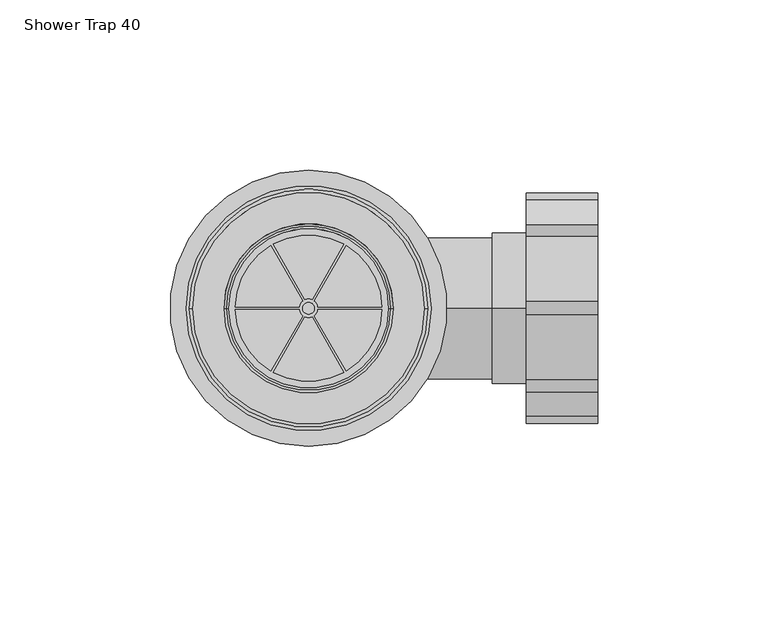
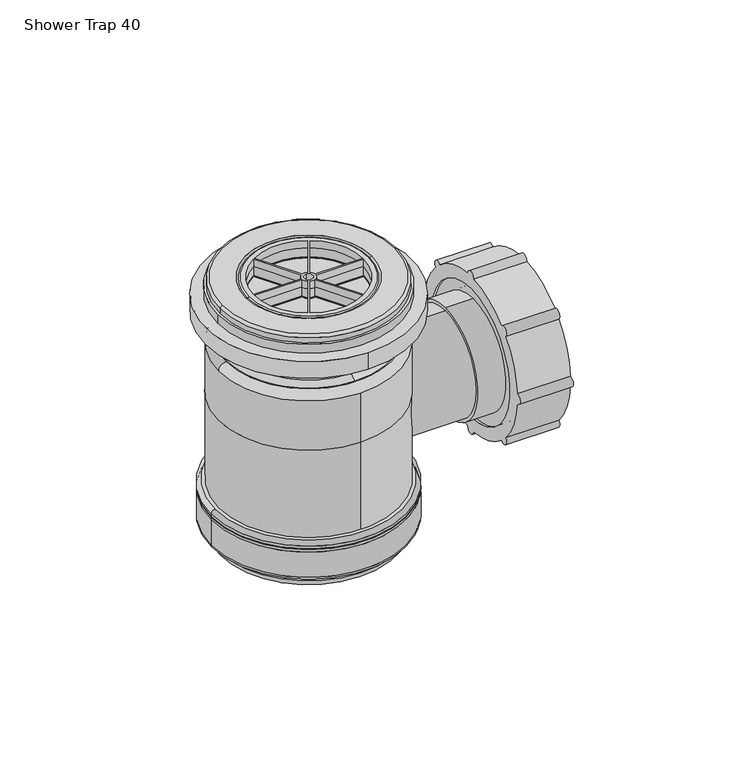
"""IFC4 building model written with IfcOpenShell, lengths in millimetres: pipe fitting geometry, Wavin_PipeAccessory_OsmaAccessoriesShowerTrap : Shower Trap 40."""

from ifc_helpers import new_model, si_unit, point, frame, frame_2d, origin, origin_2d, place, context, project, spatial, polyline, circle_curve, ellipse_curve, trimmed, segment, composite_curve, outline, extrude, source, transform, mapped, element, save
from ifc_brep_helpers import plane_surface, cylinder_surface, revolved_surface, advanced_brep


def shower_trap_40_e6af812f(model_context):
    return source(origin(), model_context, "Body", "SolidModel", [
        extrude(outline(composite_curve([segment(trimmed(circle_curve(origin_2d(), 29.1039051), [point((29.1039051, 0.0))], [point((-29.1039051, 0.0))], False, "CARTESIAN"), True, "CONTINUOUS"), segment(trimmed(circle_curve(origin_2d(), 29.1039051), [point((-29.1039051, 0.0))], [point((29.1039051, 0.0))], False, "CARTESIAN"), True, "CONTINUOUS")], self_intersect=False)), frame((0.0, 0.0, 30.0080038), z_axis=(0.0, 0.0, 1.0), x_axis=(1.0, 0.0, 0.0)), (0.0, 0.0, 1.0), 16.4919962),
        extrude(outline(composite_curve([segment(trimmed(circle_curve(origin_2d(), 20.8326286), [point((0.0, -20.8326286))], [point((0.0, 20.8326286))], False, "CARTESIAN"), True, "CONTINUOUS"), segment(trimmed(circle_curve(origin_2d(), 20.8326286), [point((0.0, 20.8326286))], [point((0.0, -20.8326286))], False, "CARTESIAN"), True, "CONTINUOUS")], self_intersect=False)), frame((0.0, 0.0, 0.0), z_axis=(1.0, 0.0, 0.0), x_axis=(0.0, 1.0, 0.0)), (0.0, 0.0, 1.0), 54.0),
        advanced_brep(
        [(-35.5, 0.0, -46.0), (35.5, 0.0, -46.0), (35.5, 0.0, -29.9504354), (-35.5, 0.0, -29.9504354), (-38.4797173, 0.0, -44.5101414), (38.4797173, 0.0, -44.5101414), (36.9898586, 0.0, -46.0), (-36.9898586, 0.0, -46.0), (-36.9898586, 0.0, -29.9504354), (36.9898586, 0.0, -29.9504354), (38.4797173, 0.0, -31.4402941), (-38.4797173, 0.0, -31.4402941), (-38.4797173, 0.0, -33.9650331), (38.4797173, 0.0, -33.9650331), (-37.7997041, 0.0, -33.2850199), (37.7997041, 0.0, -33.2850199), (-38.4797173, 0.0, -32.6050067), (38.4797173, 0.0, -32.6050067)],
        [
            (0, 1, circle_curve(frame((0.0, 0.0, -46.0), z_axis=(0.0, 0.0, -1.0), x_axis=(1.0, 0.0, 0.0)), 35.5)),
            (1, 2),
            (2, 3, circle_curve(frame((0.0, 0.0, -29.9504354), z_axis=(0.0, 0.0, 1.0), x_axis=(1.0, 0.0, 0.0)), 35.5)),
            (3, 0),
            (4, 5, circle_curve(frame((0.0, 0.0, -44.5101414), z_axis=(0.0, 0.0, -1.0), x_axis=(1.0, 0.0, 0.0)), 38.4797173)),
            (5, 6, circle_curve(frame((36.9898586, 0.0, -44.5101414), z_axis=(0.0, 1.0, 0.0), x_axis=(-1.0, 0.0, 0.0)), 1.4898586)),
            (6, 7, circle_curve(frame((0.0, 0.0, -46.0), z_axis=(0.0, 0.0, 1.0), x_axis=(1.0, 0.0, 0.0)), 36.9898586)),
            (7, 4, circle_curve(frame((-36.9898586, 0.0, -44.5101414), z_axis=(0.0, 1.0, 0.0), x_axis=(1.0, 0.0, 0.0)), 1.4898586)),
            (8, 9, circle_curve(frame((0.0, 0.0, -29.9504354), z_axis=(0.0, 0.0, -1.0), x_axis=(1.0, 0.0, 0.0)), 36.9898586)),
            (9, 10, circle_curve(frame((36.9898586, 0.0, -31.4402941), z_axis=(0.0, 1.0, 0.0), x_axis=(-1.0, 0.0, 0.0)), 1.4898586)),
            (10, 11, circle_curve(frame((0.0, 0.0, -31.4402941), z_axis=(0.0, 0.0, 1.0), x_axis=(1.0, 0.0, 0.0)), 38.4797173)),
            (11, 8, circle_curve(frame((-36.9898586, 0.0, -31.4402941), z_axis=(0.0, 1.0, 0.0), x_axis=(1.0, 0.0, 0.0)), 1.4898586)),
            (1, 0, circle_curve(frame((0.0, 0.0, -46.0), z_axis=(0.0, 0.0, -1.0), x_axis=(-1.0, 0.0, 0.0)), 35.5)),
            (3, 2, circle_curve(frame((0.0, 0.0, -29.9504354), z_axis=(0.0, 0.0, 1.0), x_axis=(-1.0, 0.0, 0.0)), 35.5)),
            (6, 7, circle_curve(frame((0.0, 0.0, -46.0), z_axis=(0.0, 0.0, -1.0), x_axis=(-1.0, 0.0, 0.0)), 36.9898586)),
            (5, 4, circle_curve(frame((0.0, 0.0, -44.5101414), z_axis=(0.0, 0.0, -1.0), x_axis=(-1.0, 0.0, 0.0)), 38.4797173)),
            (9, 8, circle_curve(frame((0.0, 0.0, -29.9504354), z_axis=(0.0, 0.0, -1.0), x_axis=(-1.0, 0.0, 0.0)), 36.9898586)),
            (11, 10, circle_curve(frame((0.0, 0.0, -31.4402941), z_axis=(0.0, 0.0, 1.0), x_axis=(-1.0, 0.0, 0.0)), 38.4797173)),
            (12, 13, circle_curve(frame((0.0, 0.0, -33.9650331), z_axis=(0.0, 0.0, -1.0), x_axis=(1.0, 0.0, 0.0)), 38.4797173)),
            (13, 5),
            (4, 12),
            (14, 15, circle_curve(frame((0.0, 0.0, -33.2850199), z_axis=(0.0, 0.0, -1.0), x_axis=(1.0, 0.0, 0.0)), 37.7997041)),
            (15, 13, circle_curve(frame((37.7997041, 0.0, -33.9650331), z_axis=(0.0, 1.0, 0.0), x_axis=(-1.0, 0.0, 0.0)), 0.6800132)),
            (12, 14, circle_curve(frame((-37.7997041, 0.0, -33.9650331), z_axis=(0.0, 1.0, 0.0), x_axis=(1.0, 0.0, 0.0)), 0.6800132)),
            (16, 17, circle_curve(frame((0.0, 0.0, -32.6050067), z_axis=(0.0, 0.0, -1.0), x_axis=(1.0, 0.0, 0.0)), 38.4797173)),
            (17, 15, circle_curve(frame((37.7997041, 0.0, -32.6050067), z_axis=(0.0, 1.0, 0.0), x_axis=(-1.0, 0.0, 0.0)), 0.6800132)),
            (14, 16, circle_curve(frame((-37.7997041, 0.0, -32.6050067), z_axis=(0.0, 1.0, 0.0), x_axis=(1.0, 0.0, 0.0)), 0.6800132)),
            (10, 17),
            (16, 11),
            (13, 12, circle_curve(frame((0.0, 0.0, -33.9650331), z_axis=(0.0, 0.0, -1.0), x_axis=(-1.0, 0.0, 0.0)), 38.4797173)),
            (15, 14, circle_curve(frame((0.0, 0.0, -33.2850199), z_axis=(0.0, 0.0, -1.0), x_axis=(-1.0, 0.0, 0.0)), 37.7997041)),
            (17, 16, circle_curve(frame((0.0, 0.0, -32.6050067), z_axis=(0.0, 0.0, -1.0), x_axis=(-1.0, 0.0, 0.0)), 38.4797173)),
        ],
        [
            revolved_surface(polyline([(35.5, 0.0, -29.9504354), (35.5, 0.0, -46.0)]), (0.0, 0.0, -46.0), (0.0, 0.0, 1.0)),
            revolved_surface(trimmed(ellipse_curve(frame((36.9898586, 0.0, -44.5101414), z_axis=(0.0, -1.0, 0.0), x_axis=(-1.0, 0.0, 0.0)), 1.4898586, 1.4898586), [point((36.9898586, 0.0, -46.0))], [point((38.4797173, 0.0, -44.5101414))], True, "CARTESIAN"), (0.0, 0.0, -46.0), (0.0, 0.0, 1.0)),
            revolved_surface(trimmed(ellipse_curve(frame((36.9898586, 0.0, -31.4402941), z_axis=(0.0, -1.0, 0.0), x_axis=(-1.0, 0.0, 0.0)), 1.4898586, 1.4898586), [point((38.4797173, 0.0, -31.4402941))], [point((36.9898586, 0.0, -29.9504354))], True, "CARTESIAN"), (0.0, 0.0, -46.0), (0.0, 0.0, 1.0)),
            revolved_surface(polyline([(-35.5, 0.0, -29.9504354), (-35.5, 0.0, -46.0)]), (0.0, 0.0, -46.0), (0.0, 0.0, 1.0)),
            plane_surface(frame((0.0, 0.0, -46.0), z_axis=(0.0, 0.0, -1.0), x_axis=(-1.0, 0.0, 0.0))),
            revolved_surface(trimmed(ellipse_curve(frame((-36.9898586, 0.0, -44.5101414), z_axis=(0.0, 1.0, 0.0), x_axis=(1.0, 0.0, 0.0)), 1.4898586, 1.4898586), [point((-36.9898586, 0.0, -46.0))], [point((-38.4797173, 0.0, -44.5101414))], True, "CARTESIAN"), (0.0, 0.0, -46.0), (0.0, 0.0, 1.0)),
            revolved_surface(trimmed(ellipse_curve(frame((-36.9898586, 0.0, -31.4402941), z_axis=(0.0, 1.0, 0.0), x_axis=(1.0, 0.0, 0.0)), 1.4898586, 1.4898586), [point((-38.4797173, 0.0, -31.4402941))], [point((-36.9898586, 0.0, -29.9504354))], True, "CARTESIAN"), (0.0, 0.0, -46.0), (0.0, 0.0, 1.0)),
            plane_surface(frame((0.0, 0.0, -29.9504354), z_axis=(0.0, 0.0, 1.0), x_axis=(-1.0, 0.0, 0.0))),
            cylinder_surface(frame((0.0, 0.0, -46.0), z_axis=(0.0, 0.0, 1.0), x_axis=(1.0, 0.0, 0.0)), 38.4797173),
            revolved_surface(trimmed(ellipse_curve(frame((37.7997041, 0.0, -33.9650331), z_axis=(0.0, -1.0, 0.0), x_axis=(-1.0, 0.0, 0.0)), 0.6800132, 0.6800132), [point((38.4797173, 0.0, -33.9650331))], [point((37.7997041, 0.0, -33.2850199))], True, "CARTESIAN"), (0.0, 0.0, -46.0), (0.0, 0.0, 1.0)),
            revolved_surface(trimmed(ellipse_curve(frame((37.7997041, 0.0, -32.6050067), z_axis=(0.0, -1.0, 0.0), x_axis=(-1.0, 0.0, 0.0)), 0.6800132, 0.6800132), [point((37.7997041, 0.0, -33.2850199))], [point((38.4797173, 0.0, -32.6050067))], True, "CARTESIAN"), (0.0, 0.0, -46.0), (0.0, 0.0, 1.0)),
            cylinder_surface(frame((0.0, 0.0, -46.0), z_axis=(0.0, 0.0, 1.0), x_axis=(-1.0, 0.0, 0.0)), 38.4797173),
            revolved_surface(trimmed(ellipse_curve(frame((-37.7997041, 0.0, -33.9650331), z_axis=(0.0, 1.0, 0.0), x_axis=(1.0, 0.0, 0.0)), 0.6800132, 0.6800132), [point((-38.4797173, 0.0, -33.9650331))], [point((-37.7997041, 0.0, -33.2850199))], True, "CARTESIAN"), (0.0, 0.0, -46.0), (0.0, 0.0, 1.0)),
            revolved_surface(trimmed(ellipse_curve(frame((-37.7997041, 0.0, -32.6050067), z_axis=(0.0, 1.0, 0.0), x_axis=(1.0, 0.0, 0.0)), 0.6800132, 0.6800132), [point((-37.7997041, 0.0, -33.2850199))], [point((-38.4797173, 0.0, -32.6050067))], True, "CARTESIAN"), (0.0, 0.0, -46.0), (0.0, 0.0, 1.0)),
        ],
        [
            (0, [[1, 2, 3, 4]]),
            (1, [[5, 6, 7, 8]]),
            (2, [[9, 10, 11, 12]]),
            (3, [[13, -4, 14, -2]]),
            (4, [[15, -7], [-13, -1]]),
            (5, [[16, -8, -15, -6]]),
            (6, [[17, -12, 18, -10]]),
            (7, [[-17, -9], [-14, -3]]),
            (8, [[19, 20, -5, 21]]),
            (9, [[22, 23, -19, 24]]),
            (10, [[25, 26, -22, 27]]),
            (8, [[-11, 28, -25, 29]]),
            (11, [[30, -21, -16, -20]]),
            (12, [[31, -24, -30, -23]]),
            (13, [[32, -27, -31, -26]]),
            (11, [[-18, -29, -32, -28]]),
        ],
    ),
        extrude(outline(composite_curve([segment(trimmed(circle_curve(origin_2d(), 26.75), [point((0.0, 26.75))], [point((0.0, -26.75))], False, "CARTESIAN"), True, "CONTINUOUS"), segment(trimmed(circle_curve(origin_2d(), 26.75), [point((0.0, -26.75))], [point((0.0, 26.75))], False, "CARTESIAN"), True, "CONTINUOUS")], self_intersect=False), holes=[composite_curve([segment(trimmed(circle_curve(origin_2d(), 22.1), [point((0.0, 22.1))], [point((0.0, -22.1))], True, "CARTESIAN"), True, "CONTINUOUS"), segment(trimmed(circle_curve(origin_2d(), 22.1), [point((0.0, -22.1))], [point((0.0, 22.1))], True, "CARTESIAN"), True, "CONTINUOUS")], self_intersect=False)]), frame((65.0, 0.0, 0.0), z_axis=(1.0, 0.0, 0.0), x_axis=(0.0, 1.0, 0.0)), (0.0, 0.0, 1.0), 4.0),
        extrude(outline(composite_curve([segment(trimmed(circle_curve(frame_2d((31.85, 0.0)), 2.0), [point((31.7872057, 1.999014))], [point((31.7872057, -1.999014))], False, "CARTESIAN"), True, "CONTINUOUS"), segment(trimmed(circle_curve(origin_2d(), 31.85), [point((31.7872057, -1.999014))], [point((23.890465, -21.0634323))], False, "CARTESIAN"), True, "CONTINUOUS"), segment(trimmed(circle_curve(frame_2d((22.521351, -22.521351)), 2.0), [point((23.890465, -21.0634323))], [point((21.0634323, -23.890465))], False, "CARTESIAN"), True, "CONTINUOUS"), segment(trimmed(circle_curve(origin_2d(), 31.85), [point((21.0634323, -23.890465))], [point((1.999014, -31.7872057))], False, "CARTESIAN"), True, "CONTINUOUS"), segment(trimmed(circle_curve(frame_2d((0.0, -31.85)), 2.0), [point((1.999014, -31.7872057))], [point((-1.999014, -31.7872057))], False, "CARTESIAN"), True, "CONTINUOUS"), segment(trimmed(circle_curve(origin_2d(), 31.85), [point((-1.999014, -31.7872057))], [point((-21.0634323, -23.890465))], False, "CARTESIAN"), True, "CONTINUOUS"), segment(trimmed(circle_curve(frame_2d((-22.521351, -22.521351)), 2.0), [point((-21.0634323, -23.890465))], [point((-23.890465, -21.0634323))], False, "CARTESIAN"), True, "CONTINUOUS"), segment(trimmed(circle_curve(origin_2d(), 31.85), [point((-23.890465, -21.0634323))], [point((-31.7872057, -1.999014))], False, "CARTESIAN"), True, "CONTINUOUS"), segment(trimmed(circle_curve(frame_2d((-31.85, 0.0)), 2.0), [point((-31.7872057, -1.999014))], [point((-31.7872057, 1.999014))], False, "CARTESIAN"), True, "CONTINUOUS"), segment(trimmed(circle_curve(origin_2d(), 31.85), [point((-31.7872057, 1.999014))], [point((-23.890465, 21.0634323))], False, "CARTESIAN"), True, "CONTINUOUS"), segment(trimmed(circle_curve(frame_2d((-22.521351, 22.521351)), 2.0), [point((-23.890465, 21.0634323))], [point((-21.0634323, 23.890465))], False, "CARTESIAN"), True, "CONTINUOUS"), segment(trimmed(circle_curve(origin_2d(), 31.85), [point((-21.0634323, 23.890465))], [point((-1.999014, 31.7872057))], False, "CARTESIAN"), True, "CONTINUOUS"), segment(trimmed(circle_curve(frame_2d((0.0, 31.85)), 2.0), [point((-1.999014, 31.7872057))], [point((1.999014, 31.7872057))], False, "CARTESIAN"), True, "CONTINUOUS"), segment(trimmed(circle_curve(origin_2d(), 31.85), [point((1.999014, 31.7872057))], [point((21.0634323, 23.890465))], False, "CARTESIAN"), True, "CONTINUOUS"), segment(trimmed(circle_curve(frame_2d((22.521351, 22.521351)), 2.0), [point((21.0634323, 23.890465))], [point((23.890465, 21.0634323))], False, "CARTESIAN"), True, "CONTINUOUS"), segment(trimmed(circle_curve(origin_2d(), 31.85), [point((23.890465, 21.0634323))], [point((31.7872057, 1.999014))], False, "CARTESIAN"), True, "CONTINUOUS")], self_intersect=False), holes=[composite_curve([segment(trimmed(circle_curve(origin_2d(), 26.75), [point((0.0, 26.75))], [point((0.0, -26.75))], True, "CARTESIAN"), True, "CONTINUOUS"), segment(trimmed(circle_curve(origin_2d(), 26.75), [point((0.0, -26.75))], [point((0.0, 26.75))], True, "CARTESIAN"), True, "CONTINUOUS")], self_intersect=False)]), frame((64.0, 0.0, 0.0), z_axis=(1.0, 0.0, 0.0), x_axis=(0.0, 1.0, 0.0)), (0.0, 0.0, 1.0), 21.0),
        advanced_brep(
        [(-32.4817761, 0.0, 30.0080038), (32.4817761, 0.0, 30.0080038), (0.0, 32.1274028, 30.0080038), (0.0, -32.1274028, 30.0080038), (0.0, -29.1039051, 30.0080038), (0.0, 29.1039051, 30.0080038), (0.0, 35.5, 6.5114818), (0.0, -35.5, 6.5114818), (0.0, -35.5, 26.98978), (-35.5, 0.0, 26.98978), (0.0, 35.5, 26.98978), (35.5, 0.0, 26.98978), (32.5405592, 0.0, -51.0), (-32.5405592, 0.0, -51.0), (0.0, 35.5, -48.0405607), (-35.5, 0.0, -48.0405592), (0.0, -35.5, -48.0405592), (35.5, 0.0, -48.0405592), (0.0, 29.1039051, 33.0315016), (0.0, -29.1039051, 33.0315016)],
        [
            (0, 1, circle_curve(frame((0.0, 0.0, 30.0080038), z_axis=(0.0, 0.0, 1.0), x_axis=(1.0, 0.0, 0.0)), 32.4817761)),
            (1, 0, circle_curve(frame((0.0, 0.0, 30.0080038), z_axis=(0.0, 0.0, 1.0), x_axis=(-1.0, 0.0, 0.0)), 32.4817761)),
            (2, 3, circle_curve(frame((0.0, 0.0, 30.0080038), z_axis=(0.0, 0.0, -1.0), x_axis=(0.0, 1.0, 0.0)), 32.1274028)),
            (3, 2, circle_curve(frame((0.0, 0.0, 30.0080038), z_axis=(0.0, 0.0, -1.0), x_axis=(0.0, -1.0, 0.0)), 32.1274028)),
            (4, 5, circle_curve(frame((0.0, 0.0, 30.0080038), z_axis=(0.0, 0.0, 1.0), x_axis=(0.0, 1.0, 0.0)), 29.1039051)),
            (5, 4, circle_curve(frame((0.0, 0.0, 30.0080038), z_axis=(0.0, 0.0, 1.0), x_axis=(0.0, -1.0, 0.0)), 29.1039051)),
            (6, 7, circle_curve(frame((0.0, 0.0, 6.5114818), z_axis=(0.0, 0.0, 1.0), x_axis=(0.0, -1.0, 0.0)), 35.5)),
            (7, 8),
            (8, 9, circle_curve(frame((0.0, 0.0, 26.98978), z_axis=(0.0, 0.0, -1.0), x_axis=(0.0, -1.0, 0.0)), 35.5)),
            (9, 10, circle_curve(frame((0.0, 0.0, 26.98978), z_axis=(0.0, 0.0, -1.0), x_axis=(0.0, -1.0, 0.0)), 35.5)),
            (10, 6),
            (7, 6, circle_curve(frame((0.0, 0.0, 6.5114818), z_axis=(0.0, 0.0, 1.0), x_axis=(0.0, -1.0, 0.0)), 35.5)),
            (10, 11, circle_curve(frame((0.0, 0.0, 26.98978), z_axis=(0.0, 0.0, -1.0), x_axis=(0.0, -1.0, 0.0)), 35.5)),
            (11, 8, circle_curve(frame((0.0, 0.0, 26.98978), z_axis=(0.0, 0.0, -1.0), x_axis=(0.0, -1.0, 0.0)), 35.5)),
            (12, 13, circle_curve(frame((0.0, 0.0, -51.0), z_axis=(0.0, 0.0, -1.0), x_axis=(1.0, 0.0, 0.0)), 32.5405592)),
            (13, 12, circle_curve(frame((0.0, 0.0, -51.0), z_axis=(0.0, 0.0, -1.0), x_axis=(-1.0, 0.0, 0.0)), 32.5405592)),
            (6, 14),
            (14, 15, circle_curve(frame((0.0, 0.0, -48.0405592), z_axis=(0.0, 0.0, 1.0), x_axis=(0.0, -1.0, 0.0)), 35.5)),
            (15, 16, circle_curve(frame((0.0, 0.0, -48.0405592), z_axis=(0.0, 0.0, 1.0), x_axis=(0.0, -1.0, 0.0)), 35.5)),
            (16, 7),
            (16, 17, circle_curve(frame((0.0, 0.0, -48.0405592), z_axis=(0.0, 0.0, 1.0), x_axis=(0.0, -1.0, 0.0)), 35.5)),
            (17, 14, circle_curve(frame((0.0, 0.0, -48.0405592), z_axis=(0.0, 0.0, 1.0), x_axis=(0.0, -1.0, 0.0)), 35.5)),
            (0, 9, circle_curve(frame((-32.4817761, 0.0, 26.98978), z_axis=(0.0, -1.0, 0.0), x_axis=(-1.0, 0.0, 0.0)), 3.0182239)),
            (11, 1, circle_curve(frame((32.4817761, 0.0, 26.98978), z_axis=(0.0, -1.0, 0.0), x_axis=(1.0, 0.0, 0.0)), 3.0182239)),
            (18, 19, circle_curve(frame((0.0, 0.0, 33.0315016), z_axis=(0.0, 0.0, -1.0), x_axis=(0.0, 1.0, 0.0)), 29.1039051)),
            (19, 3, circle_curve(frame((0.0, -32.1274028, 33.0315016), z_axis=(-1.0, 0.0, 0.0), x_axis=(0.0, -1.0, 0.0)), 3.0234978)),
            (2, 18, circle_curve(frame((0.0, 32.1274028, 33.0315016), z_axis=(-1.0, 0.0, 0.0), x_axis=(0.0, 1.0, 0.0)), 3.0234978)),
            (19, 18, circle_curve(frame((0.0, 0.0, 33.0315016), z_axis=(0.0, 0.0, -1.0), x_axis=(0.0, -1.0, 0.0)), 29.1039051)),
            (15, 13, circle_curve(frame((-32.5405592, 0.0, -48.0405592), z_axis=(0.0, -1.0, 0.0), x_axis=(-1.0, 0.0, 0.0)), 2.9594408)),
            (12, 17, circle_curve(frame((32.5405592, 0.0, -48.0405592), z_axis=(0.0, -1.0, 0.0), x_axis=(1.0, 0.0, 0.0)), 2.9594408)),
            (18, 5),
            (4, 19),
        ],
        [
            plane_surface(frame((0.0, 0.0, 30.0080038), z_axis=(0.0, 0.0, 1.0), x_axis=(0.0, -1.0, 0.0))),
            cylinder_surface(frame((0.0, 0.0, 30.0080038), z_axis=(0.0, 0.0, 1.0), x_axis=(0.0, -1.0, 0.0)), 35.5),
            plane_surface(frame((0.0, 0.0, -51.0), z_axis=(0.0, 0.0, -1.0), x_axis=(0.0, -1.0, 0.0))),
            cylinder_surface(frame((0.0, 0.0, 6.5114818), z_axis=(0.0, 0.0, 1.0), x_axis=(0.0, -1.0, 0.0)), 35.5),
            revolved_surface(trimmed(ellipse_curve(frame((32.4817761, 0.0, 26.98978), z_axis=(0.0, 1.0, 0.0), x_axis=(1.0, 0.0, 0.0)), 3.0182239, 3.0182239), [point((32.4817761, 0.0, 30.0080038))], [point((35.5, 0.0, 26.98978))], True, "CARTESIAN"), (0.0, 0.0, 30.0080038), (0.0, 0.0, -1.0)),
            revolved_surface(trimmed(ellipse_curve(frame((-32.4817761, 0.0, 26.98978), z_axis=(0.0, -1.0, 0.0), x_axis=(-1.0, 0.0, 0.0)), 3.0182239, 3.0182239), [point((-32.4817761, 0.0, 30.0080038))], [point((-35.5, 0.0, 26.98978))], True, "CARTESIAN"), (0.0, 0.0, 30.0080038), (0.0, 0.0, -1.0)),
            revolved_surface(trimmed(ellipse_curve(frame((0.0, 32.1274028, 33.0315016), z_axis=(1.0, 0.0, 0.0), x_axis=(0.0, 1.0, 0.0)), 3.0234978, 3.0234978), [point((0.0, 29.1039051, 33.0315016))], [point((0.0, 32.1274028, 30.0080038))], True, "CARTESIAN"), (0.0, 0.0, 30.0080038), (0.0, 0.0, -1.0)),
            revolved_surface(trimmed(ellipse_curve(frame((0.0, -32.1274028, 33.0315016), z_axis=(-1.0, 0.0, 0.0), x_axis=(0.0, -1.0, 0.0)), 3.0234978, 3.0234978), [point((0.0, -29.1039051, 33.0315016))], [point((0.0, -32.1274028, 30.0080038))], True, "CARTESIAN"), (0.0, 0.0, 30.0080038), (0.0, 0.0, -1.0)),
            revolved_surface(trimmed(ellipse_curve(frame((32.5405592, 0.0, -48.0405592), z_axis=(0.0, 1.0, 0.0), x_axis=(1.0, 0.0, 0.0)), 2.9594408, 2.9594408), [point((35.5, 0.0, -48.0405592))], [point((32.5405592, 0.0, -51.0))], True, "CARTESIAN"), (0.0, 0.0, -51.0), (0.0, 0.0, -1.0)),
            revolved_surface(trimmed(ellipse_curve(frame((-32.5405592, 0.0, -48.0405592), z_axis=(0.0, -1.0, 0.0), x_axis=(-1.0, 0.0, 0.0)), 2.9594408, 2.9594408), [point((-35.5, 0.0, -48.0405592))], [point((-32.5405592, 0.0, -51.0))], True, "CARTESIAN"), (0.0, 0.0, -51.0), (0.0, 0.0, -1.0)),
            revolved_surface(polyline([(0.0, 29.1039051, 30.0080038), (0.0, 29.1039051, 33.0315016)]), (0.0, 0.0, 30.0080038), (0.0, 0.0, -1.0)),
            revolved_surface(polyline([(0.0, -29.1039051, 30.0080038), (0.0, -29.1039051, 33.0315016)]), (0.0, 0.0, 30.0080038), (0.0, 0.0, -1.0)),
        ],
        [
            (0, [[1, 2], [3, 4]]),
            (0, [[5, 6]]),
            (1, [[7, 8, 9, 10, 11]]),
            (1, [[12, -11, 13, 14, -8]]),
            (2, [[15, 16]]),
            (3, [[-7, 17, 18, 19, 20]]),
            (3, [[-12, -20, 21, 22, -17]]),
            (4, [[23, -9, -14, 24, -1]]),
            (5, [[-23, -2, -24, -13, -10]]),
            (6, [[25, 26, -3, 27]]),
            (7, [[-27, -4, -26, 28]]),
            (8, [[29, -15, 30, -21, -19]]),
            (9, [[-29, -18, -22, -30, -16]]),
            (10, [[-25, 31, -5, 32]]),
            (11, [[-31, -28, -32, -6]]),
        ],
    ),
        extrude(outline(composite_curve([segment(trimmed(circle_curve(origin_2d(), 22.1), [point((0.0, -22.1))], [point((0.0, 22.1))], False, "CARTESIAN"), True, "CONTINUOUS"), segment(trimmed(circle_curve(origin_2d(), 22.1), [point((0.0, 22.1))], [point((0.0, -22.1))], False, "CARTESIAN"), True, "CONTINUOUS")], self_intersect=False), holes=[composite_curve([segment(trimmed(circle_curve(origin_2d(), 20.0), [point((0.0, -20.0))], [point((0.0, 20.0))], True, "CARTESIAN"), True, "CONTINUOUS"), segment(trimmed(circle_curve(origin_2d(), 20.0), [point((0.0, 20.0))], [point((0.0, -20.0))], True, "CARTESIAN"), True, "CONTINUOUS")], self_intersect=False)]), frame((54.0, 0.0, 0.0), z_axis=(1.0, 0.0, 0.0), x_axis=(0.0, 1.0, 0.0)), (0.0, 0.0, 1.0), 31.0),
        extrude(outline(composite_curve([segment(trimmed(circle_curve(origin_2d(), 40.65), [point((0.0, 40.65))], [point((0.0, -40.65))], False, "CARTESIAN"), True, "CONTINUOUS"), segment(trimmed(circle_curve(origin_2d(), 40.65), [point((0.0, -40.65))], [point((0.0, 40.65))], False, "CARTESIAN"), True, "CONTINUOUS")], self_intersect=False), holes=[composite_curve([segment(polyline([(2.7716746, 0.4), (21.5327647, 0.4)]), True, "CONTINUOUS"), segment(trimmed(circle_curve(origin_2d(), 21.5364796), [point((21.5327647, 0.4))], [point((11.1127925, 18.4479212))], True, "CARTESIAN"), True, "CONTINUOUS"), segment(polyline([(11.1127925, 18.4479212), (1.7322474, 2.2003406)]), True, "CONTINUOUS"), segment(trimmed(circle_curve(origin_2d(), 2.8003892), [point((1.7322474, 2.2003406))], [point((2.7716746, 0.4))], False, "CARTESIAN"), True, "CONTINUOUS")], self_intersect=False), composite_curve([segment(trimmed(circle_curve(origin_2d(), 1.7573912), [point((0.0, 1.7573912))], [point((0.0, -1.7573912))], True, "CARTESIAN"), True, "CONTINUOUS"), segment(trimmed(circle_curve(origin_2d(), 1.7573912), [point((0.0, -1.7573912))], [point((0.0, 1.7573912))], True, "CARTESIAN"), True, "CONTINUOUS")], self_intersect=False), composite_curve([segment(trimmed(circle_curve(origin_2d(), 21.5364796), [point((11.1127925, -18.4479212))], [point((21.5327647, -0.4))], True, "CARTESIAN"), True, "CONTINUOUS"), segment(polyline([(21.5327647, -0.4), (2.7716746, -0.4)]), True, "CONTINUOUS"), segment(trimmed(circle_curve(origin_2d(), 2.8003892), [point((2.7716746, -0.4))], [point((1.7322474, -2.2003406))], False, "CARTESIAN"), True, "CONTINUOUS"), segment(polyline([(1.7322474, -2.2003406), (11.1127925, -18.4479212)]), True, "CONTINUOUS")], self_intersect=False), composite_curve([segment(polyline([(10.4199722, -18.8479212), (1.0394271, -2.6003406)]), True, "CONTINUOUS"), segment(trimmed(circle_curve(origin_2d(), 2.8003892), [point((1.0394271, -2.6003406))], [point((-1.0394271, -2.6003406))], False, "CARTESIAN"), True, "CONTINUOUS"), segment(polyline([(-1.0394271, -2.6003406), (-10.4199722, -18.8479212)]), True, "CONTINUOUS"), segment(trimmed(circle_curve(origin_2d(), 21.5364796), [point((-10.4199722, -18.8479212))], [point((10.4199722, -18.8479212))], True, "CARTESIAN"), True, "CONTINUOUS")], self_intersect=False), composite_curve([segment(polyline([(-11.1127925, -18.4479212), (-1.7322474, -2.2003406)]), True, "CONTINUOUS"), segment(trimmed(circle_curve(origin_2d(), 2.8003892), [point((-1.7322474, -2.2003406))], [point((-2.7716746, -0.4))], False, "CARTESIAN"), True, "CONTINUOUS"), segment(polyline([(-2.7716746, -0.4), (-21.5327647, -0.4)]), True, "CONTINUOUS"), segment(trimmed(circle_curve(origin_2d(), 21.5364796), [point((-21.5327647, -0.4))], [point((-11.1127925, -18.4479212))], True, "CARTESIAN"), True, "CONTINUOUS")], self_intersect=False), composite_curve([segment(trimmed(circle_curve(origin_2d(), 21.5364796), [point((-11.1127925, 18.4479212))], [point((-21.5327647, 0.4))], True, "CARTESIAN"), True, "CONTINUOUS"), segment(polyline([(-21.5327647, 0.4), (-2.7716746, 0.4)]), True, "CONTINUOUS"), segment(trimmed(circle_curve(origin_2d(), 2.8003892), [point((-2.7716746, 0.4))], [point((-1.7322474, 2.2003406))], False, "CARTESIAN"), True, "CONTINUOUS"), segment(polyline([(-1.7322474, 2.2003406), (-11.1127925, 18.4479212)]), True, "CONTINUOUS")], self_intersect=False), composite_curve([segment(polyline([(-10.4199722, 18.8479212), (-1.0394271, 2.6003406)]), True, "CONTINUOUS"), segment(trimmed(circle_curve(origin_2d(), 2.8003892), [point((-1.0394271, 2.6003406))], [point((1.0394271, 2.6003406))], False, "CARTESIAN"), True, "CONTINUOUS"), segment(polyline([(1.0394271, 2.6003406), (10.4199722, 18.8479212)]), True, "CONTINUOUS"), segment(trimmed(circle_curve(origin_2d(), 21.5364796), [point((10.4199722, 18.8479212))], [point((-10.4199722, 18.8479212))], True, "CARTESIAN"), True, "CONTINUOUS")], self_intersect=False)]), frame((0.0, 0.0, 40.0), z_axis=(0.0, 0.0, 1.0), x_axis=(1.0, 0.0, 0.0)), (0.0, 0.0, 1.0), 7.0),
        advanced_brep(
        [(23.4226307, 0.0, 54.0), (-23.4226307, 0.0, 54.0), (21.5327647, 0.4, 54.0), (2.7716746, 0.4, 54.0), (1.7322474, 2.2003406, 54.0), (11.1127925, 18.4479212, 54.0), (0.0, -1.7573912, 54.0), (0.0, 1.7573912, 54.0), (21.5327647, -0.4, 54.0), (11.1127925, -18.4479212, 54.0), (1.7322474, -2.2003406, 54.0), (2.7716746, -0.4, 54.0), (1.0394271, -2.6003406, 54.0), (10.4199722, -18.8479212, 54.0), (-10.4199722, -18.8479212, 54.0), (-1.0394271, -2.6003406, 54.0), (-1.7322474, -2.2003406, 54.0), (-11.1127925, -18.4479212, 54.0), (-21.5327647, -0.4, 54.0), (-2.7716746, -0.4, 54.0), (-21.5327647, 0.4, 54.0), (-11.1127925, 18.4479212, 54.0), (-1.7322474, 2.2003406, 54.0), (-2.7716746, 0.4, 54.0), (-1.0394271, 2.6003406, 54.0), (-10.4199722, 18.8479212, 54.0), (10.4199722, 18.8479212, 54.0), (1.0394271, 2.6003406, 54.0), (33.9953923, 0.0, 54.0), (-33.9953923, 0.0, 54.0), (-24.8315579, 0.0, 54.0), (24.8315579, 0.0, 54.0), (35.0, 0.0, 51.0), (-35.0, 0.0, 51.0), (2.7716746, 0.4, 51.0), (21.5327647, 0.4, 51.0), (11.1127925, 18.4479212, 51.0), (1.7322474, 2.2003406, 51.0), (0.0, 1.7573912, 51.0), (0.0, -1.7573912, 51.0), (11.1127925, -18.4479212, 51.0), (21.5327647, -0.4, 51.0), (2.7716746, -0.4, 51.0), (1.7322474, -2.2003406, 51.0), (10.4199722, -18.8479212, 51.0), (1.0394271, -2.6003406, 51.0), (-1.0394271, -2.6003406, 51.0), (-10.4199722, -18.8479212, 51.0), (-11.1127925, -18.4479212, 51.0), (-1.7322474, -2.2003406, 51.0), (-2.7716746, -0.4, 51.0), (-21.5327647, -0.4, 51.0), (-11.1127925, 18.4479212, 51.0), (-21.5327647, 0.4, 51.0), (-2.7716746, 0.4, 51.0), (-1.7322474, 2.2003406, 51.0), (-10.4199722, 18.8479212, 51.0), (-1.0394271, 2.6003406, 51.0), (1.0394271, 2.6003406, 51.0), (10.4199722, 18.8479212, 51.0), (-35.0, 0.0, 52.9953932), (35.0, 0.0, 52.9953923), (-24.1270943, 0.0, 53.2955364), (24.1270943, 0.0, 53.2955364)],
        [
            (0, 1, circle_curve(frame((0.0, 0.0, 54.0), z_axis=(0.0, 0.0, 1.0), x_axis=(1.0, 0.0, 0.0)), 23.4226307)),
            (1, 0, circle_curve(frame((0.0, 0.0, 54.0), z_axis=(0.0, 0.0, 1.0), x_axis=(-1.0, 0.0, 0.0)), 23.4226307)),
            (2, 3),
            (3, 4, circle_curve(frame((0.0, 0.0, 54.0), z_axis=(0.0, 0.0, 1.0), x_axis=(0.0, -1.0, 0.0)), 2.8003892)),
            (4, 5),
            (5, 2, circle_curve(frame((0.0, 0.0, 54.0), z_axis=(0.0, 0.0, -1.0), x_axis=(0.0, -1.0, 0.0)), 21.5364796)),
            (6, 7, circle_curve(frame((0.0, 0.0, 54.0), z_axis=(0.0, 0.0, -1.0), x_axis=(0.0, -1.0, 0.0)), 1.7573912)),
            (7, 6, circle_curve(frame((0.0, 0.0, 54.0), z_axis=(0.0, 0.0, -1.0), x_axis=(0.0, -1.0, 0.0)), 1.7573912)),
            (8, 9, circle_curve(frame((0.0, 0.0, 54.0), z_axis=(0.0, 0.0, -1.0), x_axis=(0.0, -1.0, 0.0)), 21.5364796)),
            (9, 10),
            (10, 11, circle_curve(frame((0.0, 0.0, 54.0), z_axis=(0.0, 0.0, 1.0), x_axis=(0.0, -1.0, 0.0)), 2.8003892)),
            (11, 8),
            (12, 13),
            (13, 14, circle_curve(frame((0.0, 0.0, 54.0), z_axis=(0.0, 0.0, -1.0), x_axis=(0.0, -1.0, 0.0)), 21.5364796)),
            (14, 15),
            (15, 12, circle_curve(frame((0.0, 0.0, 54.0), z_axis=(0.0, 0.0, 1.0), x_axis=(0.0, -1.0, 0.0)), 2.8003892)),
            (16, 17),
            (17, 18, circle_curve(frame((0.0, 0.0, 54.0), z_axis=(0.0, 0.0, -1.0), x_axis=(0.0, -1.0, 0.0)), 21.5364796)),
            (18, 19),
            (19, 16, circle_curve(frame((0.0, 0.0, 54.0), z_axis=(0.0, 0.0, 1.0), x_axis=(0.0, -1.0, 0.0)), 2.8003892)),
            (20, 21, circle_curve(frame((0.0, 0.0, 54.0), z_axis=(0.0, 0.0, -1.0), x_axis=(0.0, -1.0, 0.0)), 21.5364796)),
            (21, 22),
            (22, 23, circle_curve(frame((0.0, 0.0, 54.0), z_axis=(0.0, 0.0, 1.0), x_axis=(0.0, -1.0, 0.0)), 2.8003892)),
            (23, 20),
            (24, 25),
            (25, 26, circle_curve(frame((0.0, 0.0, 54.0), z_axis=(0.0, 0.0, -1.0), x_axis=(0.0, -1.0, 0.0)), 21.5364796)),
            (26, 27),
            (27, 24, circle_curve(frame((0.0, 0.0, 54.0), z_axis=(0.0, 0.0, 1.0), x_axis=(0.0, -1.0, 0.0)), 2.8003892)),
            (28, 29, circle_curve(frame((0.0, 0.0, 54.0), z_axis=(0.0, 0.0, 1.0), x_axis=(1.0, 0.0, 0.0)), 33.9953923)),
            (29, 28, circle_curve(frame((0.0, 0.0, 54.0), z_axis=(0.0, 0.0, 1.0), x_axis=(-1.0, 0.0, 0.0)), 33.9953923)),
            (30, 31, circle_curve(frame((0.0, 0.0, 54.0), z_axis=(0.0, 0.0, -1.0), x_axis=(1.0, 0.0, 0.0)), 24.8315579)),
            (31, 30, circle_curve(frame((0.0, 0.0, 54.0), z_axis=(0.0, 0.0, -1.0), x_axis=(-1.0, 0.0, 0.0)), 24.8315579)),
            (32, 33, circle_curve(frame((0.0, 0.0, 51.0), z_axis=(0.0, 0.0, -1.0), x_axis=(-1.0, 0.0, 0.0)), 35.0)),
            (33, 32, circle_curve(frame((0.0, 0.0, 51.0), z_axis=(0.0, 0.0, -1.0), x_axis=(-1.0, 0.0, 0.0)), 35.0)),
            (34, 35),
            (35, 36, circle_curve(frame((0.0, 0.0, 51.0), z_axis=(0.0, 0.0, 1.0), x_axis=(0.0, -1.0, 0.0)), 21.5364796)),
            (36, 37),
            (37, 34, circle_curve(frame((0.0, 0.0, 51.0), z_axis=(0.0, 0.0, -1.0), x_axis=(0.0, -1.0, 0.0)), 2.8003892)),
            (38, 39, circle_curve(frame((0.0, 0.0, 51.0), z_axis=(0.0, 0.0, 1.0), x_axis=(0.0, -1.0, 0.0)), 1.7573912)),
            (39, 38, circle_curve(frame((0.0, 0.0, 51.0), z_axis=(0.0, 0.0, 1.0), x_axis=(0.0, -1.0, 0.0)), 1.7573912)),
            (40, 41, circle_curve(frame((0.0, 0.0, 51.0), z_axis=(0.0, 0.0, 1.0), x_axis=(0.0, -1.0, 0.0)), 21.5364796)),
            (41, 42),
            (42, 43, circle_curve(frame((0.0, 0.0, 51.0), z_axis=(0.0, 0.0, -1.0), x_axis=(0.0, -1.0, 0.0)), 2.8003892)),
            (43, 40),
            (44, 45),
            (45, 46, circle_curve(frame((0.0, 0.0, 51.0), z_axis=(0.0, 0.0, -1.0), x_axis=(0.0, -1.0, 0.0)), 2.8003892)),
            (46, 47),
            (47, 44, circle_curve(frame((0.0, 0.0, 51.0), z_axis=(0.0, 0.0, 1.0), x_axis=(0.0, -1.0, 0.0)), 21.5364796)),
            (48, 49),
            (49, 50, circle_curve(frame((0.0, 0.0, 51.0), z_axis=(0.0, 0.0, -1.0), x_axis=(0.0, -1.0, 0.0)), 2.8003892)),
            (50, 51),
            (51, 48, circle_curve(frame((0.0, 0.0, 51.0), z_axis=(0.0, 0.0, 1.0), x_axis=(0.0, -1.0, 0.0)), 21.5364796)),
            (52, 53, circle_curve(frame((0.0, 0.0, 51.0), z_axis=(0.0, 0.0, 1.0), x_axis=(0.0, -1.0, 0.0)), 21.5364796)),
            (53, 54),
            (54, 55, circle_curve(frame((0.0, 0.0, 51.0), z_axis=(0.0, 0.0, -1.0), x_axis=(0.0, -1.0, 0.0)), 2.8003892)),
            (55, 52),
            (56, 57),
            (57, 58, circle_curve(frame((0.0, 0.0, 51.0), z_axis=(0.0, 0.0, -1.0), x_axis=(0.0, -1.0, 0.0)), 2.8003892)),
            (58, 59),
            (59, 56, circle_curve(frame((0.0, 0.0, 51.0), z_axis=(0.0, 0.0, 1.0), x_axis=(0.0, -1.0, 0.0)), 21.5364796)),
            (33, 60),
            (60, 61, circle_curve(frame((0.0, 0.0, 52.9953923), z_axis=(0.0, 0.0, -1.0), x_axis=(-1.0, 0.0, 0.0)), 35.0)),
            (61, 32),
            (61, 60, circle_curve(frame((0.0, 0.0, 52.9953923), z_axis=(0.0, 0.0, -1.0), x_axis=(-1.0, 0.0, 0.0)), 35.0)),
            (34, 3),
            (2, 35),
            (5, 36),
            (4, 37),
            (38, 7),
            (6, 39),
            (40, 9),
            (8, 41),
            (11, 42),
            (10, 43),
            (44, 13),
            (12, 45),
            (15, 46),
            (14, 47),
            (48, 17),
            (16, 49),
            (19, 50),
            (18, 51),
            (52, 21),
            (20, 53),
            (23, 54),
            (22, 55),
            (56, 25),
            (24, 57),
            (27, 58),
            (26, 59),
            (30, 62, circle_curve(frame((-24.8315579, 0.0, 53.2955364), z_axis=(0.0, 1.0, 0.0), x_axis=(1.0, 0.0, 0.0)), 0.7044636)),
            (62, 63, circle_curve(frame((0.0, 0.0, 53.2955364), z_axis=(0.0, 0.0, -1.0), x_axis=(1.0, 0.0, 0.0)), 24.1270943)),
            (63, 31, circle_curve(frame((24.8315579, 0.0, 53.2955364), z_axis=(0.0, 1.0, 0.0), x_axis=(-1.0, 0.0, 0.0)), 0.7044636)),
            (62, 1, circle_curve(frame((-23.4226307, 0.0, 53.2955364), z_axis=(0.0, 1.0, 0.0), x_axis=(1.0, 0.0, 0.0)), 0.7044636)),
            (0, 63, circle_curve(frame((23.4226307, 0.0, 53.2955364), z_axis=(0.0, 1.0, 0.0), x_axis=(-1.0, 0.0, 0.0)), 0.7044636)),
            (63, 62, circle_curve(frame((0.0, 0.0, 53.2955364), z_axis=(0.0, 0.0, -1.0), x_axis=(-1.0, 0.0, 0.0)), 24.1270943)),
            (60, 29, circle_curve(frame((-33.9953923, 0.0, 52.9953923), z_axis=(0.0, 1.0, 0.0), x_axis=(1.0, 0.0, 0.0)), 1.0046077)),
            (28, 61, circle_curve(frame((33.9953923, 0.0, 52.9953923), z_axis=(0.0, 1.0, 0.0), x_axis=(-1.0, 0.0, 0.0)), 1.0046077)),
        ],
        [
            plane_surface(frame((-35.0, 0.0, 54.0), z_axis=(0.0, 0.0, 1.0), x_axis=(0.0, -1.0, 0.0))),
            plane_surface(frame((-35.0, 0.0, 51.0), z_axis=(0.0, 0.0, -1.0), x_axis=(0.0, 1.0, 0.0))),
            cylinder_surface(frame((0.0, 0.0, 51.0), z_axis=(0.0, 0.0, 1.0), x_axis=(-1.0, 0.0, 0.0)), 35.0),
            plane_surface(frame((2.7716746, 0.4, 54.0), z_axis=(0.0, 1.0, 0.0), x_axis=(0.0, 0.0, -1.0))),
            revolved_surface(polyline([(0.0, -21.5364796, 54.0), (0.0, -21.5364796, 51.0)]), (0.0, 0.0, 40.0), (0.0, 0.0, 1.0)),
            plane_surface(frame((11.1127925, 18.4479212, 54.0), z_axis=(0.8660254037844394, -0.4999999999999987, 0.0), x_axis=(0.0, 0.0, -1.0))),
            cylinder_surface(frame((0.0, 0.0, 40.0), z_axis=(0.0, 0.0, -1.0), x_axis=(0.0, -1.0, 0.0)), 2.8003892),
            revolved_surface(polyline([(0.0, -1.7573912, 54.0), (0.0, -1.7573912, 51.0)]), (0.0, 0.0, 40.0), (0.0, 0.0, 1.0)),
            plane_surface(frame((21.5327647, -0.4, 54.0), z_axis=(0.0, -1.0, 0.0), x_axis=(0.0, 0.0, -1.0))),
            plane_surface(frame((1.7322474, -2.2003406, 54.0), z_axis=(0.8660254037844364, 0.500000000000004, 0.0), x_axis=(0.0, 0.0, -1.0))),
            plane_surface(frame((10.4199722, -18.8479212, 54.0), z_axis=(-0.8660254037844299, -0.5000000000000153, 0.0), x_axis=(0.0, 0.0, -1.0))),
            plane_surface(frame((-1.0394271, -2.6003406, 54.0), z_axis=(0.866025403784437, -0.500000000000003, 0.0), x_axis=(0.0, 0.0, -1.0))),
            plane_surface(frame((-11.1127925, -18.4479212, 54.0), z_axis=(-0.8660254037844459, 0.4999999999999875, 0.0), x_axis=(0.0, 0.0, -1.0))),
            plane_surface(frame((-2.7716746, -0.4, 54.0), z_axis=(0.0, -1.0, 0.0), x_axis=(0.0, 0.0, -1.0))),
            plane_surface(frame((-21.5327647, 0.4, 54.0), z_axis=(0.0, 1.0, 0.0), x_axis=(0.0, 0.0, -1.0))),
            plane_surface(frame((-1.7322474, 2.2003406, 54.0), z_axis=(-0.8660254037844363, -0.5000000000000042, 0.0), x_axis=(0.0, 0.0, -1.0))),
            plane_surface(frame((-10.4199722, 18.8479212, 54.0), z_axis=(0.8660254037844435, 0.49999999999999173, 0.0), x_axis=(0.0, 0.0, -1.0))),
            plane_surface(frame((1.0394271, 2.6003406, 54.0), z_axis=(-0.8660254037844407, 0.49999999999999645, 0.0), x_axis=(0.0, 0.0, -1.0))),
            revolved_surface(trimmed(ellipse_curve(frame((24.8315579, 0.0, 53.2955364), z_axis=(0.0, -1.0, 0.0), x_axis=(-1.0, 0.0, 0.0)), 0.7044636, 0.7044636), [point((24.8315579, 0.0, 54.0))], [point((24.1270943, 0.0, 53.2955364))], True, "CARTESIAN"), (0.0, 0.0, 54.0), (0.0, 0.0, 1.0)),
            revolved_surface(trimmed(ellipse_curve(frame((23.4226307, 0.0, 53.2955364), z_axis=(0.0, -1.0, 0.0), x_axis=(-1.0, 0.0, 0.0)), 0.7044636, 0.7044636), [point((24.1270943, 0.0, 53.2955364))], [point((23.4226307, 0.0, 54.0))], True, "CARTESIAN"), (0.0, 0.0, 54.0), (0.0, 0.0, 1.0)),
            revolved_surface(trimmed(ellipse_curve(frame((-24.8315579, 0.0, 53.2955364), z_axis=(0.0, 1.0, 0.0), x_axis=(1.0, 0.0, 0.0)), 0.7044636, 0.7044636), [point((-24.8315579, 0.0, 54.0))], [point((-24.1270943, 0.0, 53.2955364))], True, "CARTESIAN"), (0.0, 0.0, 54.0), (0.0, 0.0, 1.0)),
            revolved_surface(trimmed(ellipse_curve(frame((-23.4226307, 0.0, 53.2955364), z_axis=(0.0, 1.0, 0.0), x_axis=(1.0, 0.0, 0.0)), 0.7044636, 0.7044636), [point((-24.1270943, 0.0, 53.2955364))], [point((-23.4226307, 0.0, 54.0))], True, "CARTESIAN"), (0.0, 0.0, 54.0), (0.0, 0.0, 1.0)),
            revolved_surface(trimmed(ellipse_curve(frame((33.9953923, 0.0, 52.9953923), z_axis=(0.0, -1.0, 0.0), x_axis=(-1.0, 0.0, 0.0)), 1.0046077, 1.0046077), [point((35.0, 0.0, 52.9953923))], [point((33.9953923, 0.0, 54.0))], True, "CARTESIAN"), (0.0, 0.0, 54.0), (0.0, 0.0, 1.0)),
            revolved_surface(trimmed(ellipse_curve(frame((-33.9953923, 0.0, 52.9953923), z_axis=(0.0, 1.0, 0.0), x_axis=(1.0, 0.0, 0.0)), 1.0046077, 1.0046077), [point((-35.0, 0.0, 52.9953923))], [point((-33.9953923, 0.0, 54.0))], True, "CARTESIAN"), (0.0, 0.0, 54.0), (0.0, 0.0, 1.0)),
        ],
        [
            (0, [[1, 2], [3, 4, 5, 6], [7, 8], [9, 10, 11, 12], [13, 14, 15, 16], [17, 18, 19, 20], [21, 22, 23, 24], [25, 26, 27, 28]]),
            (0, [[29, 30], [31, 32]]),
            (1, [[33, 34], [35, 36, 37, 38], [39, 40], [41, 42, 43, 44], [45, 46, 47, 48], [49, 50, 51, 52], [53, 54, 55, 56], [57, 58, 59, 60]]),
            (2, [[-34, 61, 62, 63]]),
            (2, [[-33, -63, 64, -61]]),
            (3, [[65, -3, 66, -35]]),
            (4, [[-66, -6, 67, -36]]),
            (5, [[-67, -5, 68, -37]]),
            (6, [[-65, -38, -68, -4]]),
            (7, [[69, -7, 70, -39]]),
            (7, [[-69, -40, -70, -8]]),
            (4, [[71, -9, 72, -41]]),
            (8, [[-72, -12, 73, -42]]),
            (6, [[-73, -11, 74, -43]]),
            (9, [[-71, -44, -74, -10]]),
            (10, [[75, -13, 76, -45]]),
            (6, [[-76, -16, 77, -46]]),
            (11, [[-77, -15, 78, -47]]),
            (4, [[-75, -48, -78, -14]]),
            (12, [[79, -17, 80, -49]]),
            (6, [[-80, -20, 81, -50]]),
            (13, [[-81, -19, 82, -51]]),
            (4, [[-79, -52, -82, -18]]),
            (4, [[83, -21, 84, -53]]),
            (14, [[-84, -24, 85, -54]]),
            (6, [[-85, -23, 86, -55]]),
            (15, [[-83, -56, -86, -22]]),
            (16, [[87, -25, 88, -57]]),
            (6, [[-88, -28, 89, -58]]),
            (17, [[-89, -27, 90, -59]]),
            (4, [[-87, -60, -90, -26]]),
            (18, [[91, 92, 93, -31]]),
            (19, [[-92, 94, -1, 95]]),
            (20, [[-91, -32, -93, 96]]),
            (21, [[-94, -96, -95, -2]]),
            (22, [[97, -29, 98, -62]]),
            (23, [[-97, -64, -98, -30]]),
        ],
    ),
        extrude(outline(composite_curve([segment(trimmed(circle_curve(origin_2d(), 36.0), [point((36.0, 0.0))], [point((-36.0, 0.0))], False, "CARTESIAN"), True, "CONTINUOUS"), segment(trimmed(circle_curve(origin_2d(), 36.0), [point((-36.0, 0.0))], [point((36.0, 0.0))], False, "CARTESIAN"), True, "CONTINUOUS")], self_intersect=False), holes=[composite_curve([segment(polyline([(2.7716746, 0.4), (21.5327647, 0.4)]), True, "CONTINUOUS"), segment(trimmed(circle_curve(origin_2d(), 21.5364796), [point((21.5327647, 0.4))], [point((11.1127925, 18.4479212))], True, "CARTESIAN"), True, "CONTINUOUS"), segment(polyline([(11.1127925, 18.4479212), (1.7322474, 2.2003406)]), True, "CONTINUOUS"), segment(trimmed(circle_curve(origin_2d(), 2.8003892), [point((1.7322474, 2.2003406))], [point((2.7716746, 0.4))], False, "CARTESIAN"), True, "CONTINUOUS")], self_intersect=False), composite_curve([segment(trimmed(circle_curve(origin_2d(), 1.7573912), [point((0.0, 1.7573912))], [point((0.0, -1.7573912))], True, "CARTESIAN"), True, "CONTINUOUS"), segment(trimmed(circle_curve(origin_2d(), 1.7573912), [point((0.0, -1.7573912))], [point((0.0, 1.7573912))], True, "CARTESIAN"), True, "CONTINUOUS")], self_intersect=False), composite_curve([segment(trimmed(circle_curve(origin_2d(), 21.5364796), [point((11.1127925, -18.4479212))], [point((21.5327647, -0.4))], True, "CARTESIAN"), True, "CONTINUOUS"), segment(polyline([(21.5327647, -0.4), (2.7716746, -0.4)]), True, "CONTINUOUS"), segment(trimmed(circle_curve(origin_2d(), 2.8003892), [point((2.7716746, -0.4))], [point((1.7322474, -2.2003406))], False, "CARTESIAN"), True, "CONTINUOUS"), segment(polyline([(1.7322474, -2.2003406), (11.1127925, -18.4479212)]), True, "CONTINUOUS")], self_intersect=False), composite_curve([segment(polyline([(10.4199722, -18.8479212), (1.0394271, -2.6003406)]), True, "CONTINUOUS"), segment(trimmed(circle_curve(origin_2d(), 2.8003892), [point((1.0394271, -2.6003406))], [point((-1.0394271, -2.6003406))], False, "CARTESIAN"), True, "CONTINUOUS"), segment(polyline([(-1.0394271, -2.6003406), (-10.4199722, -18.8479212)]), True, "CONTINUOUS"), segment(trimmed(circle_curve(origin_2d(), 21.5364796), [point((-10.4199722, -18.8479212))], [point((10.4199722, -18.8479212))], True, "CARTESIAN"), True, "CONTINUOUS")], self_intersect=False), composite_curve([segment(polyline([(-11.1127925, -18.4479212), (-1.7322474, -2.2003406)]), True, "CONTINUOUS"), segment(trimmed(circle_curve(origin_2d(), 2.8003892), [point((-1.7322474, -2.2003406))], [point((-2.7716746, -0.4))], False, "CARTESIAN"), True, "CONTINUOUS"), segment(polyline([(-2.7716746, -0.4), (-21.5327647, -0.4)]), True, "CONTINUOUS"), segment(trimmed(circle_curve(origin_2d(), 21.5364796), [point((-21.5327647, -0.4))], [point((-11.1127925, -18.4479212))], True, "CARTESIAN"), True, "CONTINUOUS")], self_intersect=False), composite_curve([segment(trimmed(circle_curve(origin_2d(), 21.5364796), [point((-11.1127925, 18.4479212))], [point((-21.5327647, 0.4))], True, "CARTESIAN"), True, "CONTINUOUS"), segment(polyline([(-21.5327647, 0.4), (-2.7716746, 0.4)]), True, "CONTINUOUS"), segment(trimmed(circle_curve(origin_2d(), 2.8003892), [point((-2.7716746, 0.4))], [point((-1.7322474, 2.2003406))], False, "CARTESIAN"), True, "CONTINUOUS"), segment(polyline([(-1.7322474, 2.2003406), (-11.1127925, 18.4479212)]), True, "CONTINUOUS")], self_intersect=False), composite_curve([segment(polyline([(-10.4199722, 18.8479212), (-1.0394271, 2.6003406)]), True, "CONTINUOUS"), segment(trimmed(circle_curve(origin_2d(), 2.8003892), [point((-1.0394271, 2.6003406))], [point((1.0394271, 2.6003406))], False, "CARTESIAN"), True, "CONTINUOUS"), segment(polyline([(1.0394271, 2.6003406), (10.4199722, 18.8479212)]), True, "CONTINUOUS"), segment(trimmed(circle_curve(origin_2d(), 21.5364796), [point((10.4199722, 18.8479212))], [point((-10.4199722, 18.8479212))], True, "CARTESIAN"), True, "CONTINUOUS")], self_intersect=False)]), frame((0.0, 0.0, 47.0), z_axis=(0.0, 0.0, 1.0), x_axis=(1.0, 0.0, 0.0)), (0.0, 0.0, 1.0), 4.0),
    ])


if __name__ == "__main__":
    model = new_model("IFC4")
    model_context = context("Model", 3, world=origin())
    ifc_project = project(units=[si_unit("LENGTHUNIT", "METRE", prefix="MILLI")], contexts=[model_context])
    site = spatial("IfcSite", under=ifc_project)
    building = spatial("IfcBuilding", under=site)
    placement = place(None, origin())
    shower_trap_40_shape = shower_trap_40_e6af812f(model_context)
    element("IfcPipeFitting", 1, ObjectType="Wavin_PipeAccessory_OsmaAccessoriesShowerTrap : Shower Trap 40", at=placement, inside=building, context=model_context, shape_type="MappedRepresentation", body=[
        mapped(shower_trap_40_shape, transform((0.0, 0.0, 0.0), x_axis=(1.0, 0.0, 0.0), y_axis=(0.0, 1.0, 0.0), z_axis=(0.0, 0.0, 1.0))),
    ])
    save(model, "model.ifc")
